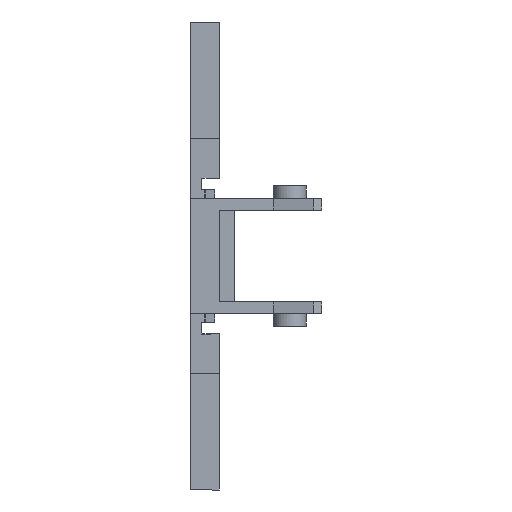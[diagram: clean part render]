
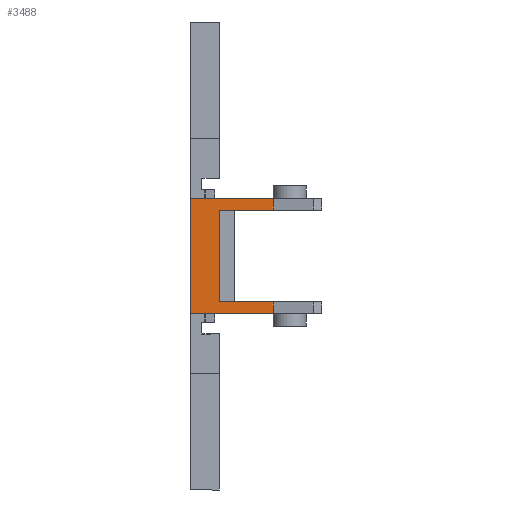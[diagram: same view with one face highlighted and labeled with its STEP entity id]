
A CAD part, front view. The second image highlights one B-rep face of the part: STEP entity #3488.
In plain terms, the highlighted planar face has unit normal (0, -1, 0).
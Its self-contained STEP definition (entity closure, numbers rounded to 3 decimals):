
#259 = CARTESIAN_POINT ( 'NONE',  ( 13.5, -16.55, -5.9 ) ) ;
#260 = PLANE ( 'NONE',  #2984 ) ;
#262 = DIRECTION ( 'NONE',  ( 0., -1., 0. ) ) ;
#263 = DIRECTION ( 'NONE',  ( -1., 0., 0. ) ) ;
#364 = LINE ( 'NONE', #3201, #365 ) ;
#365 = VECTOR ( 'NONE', #3199, 1000. ) ;
#533 = FACE_OUTER_BOUND ( 'NONE', #824, .T. ) ;
#582 = ORIENTED_EDGE ( 'NONE', *, *, #3046, .T. ) ;
#586 = ORIENTED_EDGE ( 'NONE', *, *, #2818, .F. ) ;
#690 = ORIENTED_EDGE ( 'NONE', *, *, #2851, .F. ) ;
#736 = ORIENTED_EDGE ( 'NONE', *, *, #2920, .F. ) ;
#753 = ORIENTED_EDGE ( 'NONE', *, *, #2906, .T. ) ;
#796 = ORIENTED_EDGE ( 'NONE', *, *, #2751, .T. ) ;
#815 = ORIENTED_EDGE ( 'NONE', *, *, #3123, .T. ) ;
#818 = ORIENTED_EDGE ( 'NONE', *, *, #2761, .F. ) ;
#824 = EDGE_LOOP ( 'NONE', ( #736, #753, #818, #582, #796, #815, #586, #690 ) ) ;
#1350 = LINE ( 'NONE', #2267, #1360 ) ;
#1360 = VECTOR ( 'NONE', #2272, 1000. ) ;
#1368 = VECTOR ( 'NONE', #2285, 1000. ) ;
#1371 = LINE ( 'NONE', #2279, #1368 ) ;
#1439 = LINE ( 'NONE', #2364, #1440 ) ;
#1440 = VECTOR ( 'NONE', #2365, 1000. ) ;
#1480 = LINE ( 'NONE', #2411, #1481 ) ;
#1481 = VECTOR ( 'NONE', #2412, 1000. ) ;
#1548 = LINE ( 'NONE', #2487, #1549 ) ;
#1549 = VECTOR ( 'NONE', #2488, 1000. ) ;
#1569 = LINE ( 'NONE', #2510, #1570 ) ;
#1570 = VECTOR ( 'NONE', #2511, 1000. ) ;
#1710 = LINE ( 'NONE', #3296, #1711 ) ;
#1711 = VECTOR ( 'NONE', #3281, 1000. ) ;
#1870 = VERTEX_POINT ( 'NONE', #2066 ) ;
#1871 = VERTEX_POINT ( 'NONE', #2067 ) ;
#1872 = VERTEX_POINT ( 'NONE', #2068 ) ;
#1873 = VERTEX_POINT ( 'NONE', #2069 ) ;
#1874 = VERTEX_POINT ( 'NONE', #2070 ) ;
#1875 = VERTEX_POINT ( 'NONE', #2071 ) ;
#1876 = VERTEX_POINT ( 'NONE', #2072 ) ;
#1877 = VERTEX_POINT ( 'NONE', #2073 ) ;
#2066 = CARTESIAN_POINT ( 'NONE',  ( 3., -16.55, 4.7 ) ) ;
#2067 = CARTESIAN_POINT ( 'NONE',  ( 3., -16.55, -4.7 ) ) ;
#2068 = CARTESIAN_POINT ( 'NONE',  ( 8.523, -16.55, 4.7 ) ) ;
#2069 = CARTESIAN_POINT ( 'NONE',  ( 8.523, -16.55, 5.9 ) ) ;
#2070 = CARTESIAN_POINT ( 'NONE',  ( 0., -16.55, 5.9 ) ) ;
#2071 = CARTESIAN_POINT ( 'NONE',  ( 0., -16.55, -5.9 ) ) ;
#2072 = CARTESIAN_POINT ( 'NONE',  ( 8.523, -16.55, -5.9 ) ) ;
#2073 = CARTESIAN_POINT ( 'NONE',  ( 8.523, -16.55, -4.7 ) ) ;
#2267 = CARTESIAN_POINT ( 'NONE',  ( 0., -16.55, 15.37 ) ) ;
#2272 = DIRECTION ( 'NONE',  ( 0., 0., -1. ) ) ;
#2279 = CARTESIAN_POINT ( 'NONE',  ( 8.523, -16.55, 67.733 ) ) ;
#2285 = DIRECTION ( 'NONE',  ( 0., 0., -1. ) ) ;
#2364 = CARTESIAN_POINT ( 'NONE',  ( 8.523, -16.55, 67.733 ) ) ;
#2365 = DIRECTION ( 'NONE',  ( 0., 0., -1. ) ) ;
#2411 = CARTESIAN_POINT ( 'NONE',  ( 13.5, -16.55, -4.7 ) ) ;
#2412 = DIRECTION ( 'NONE',  ( 1., 0., 0. ) ) ;
#2487 = CARTESIAN_POINT ( 'NONE',  ( 13.5, -16.55, 4.7 ) ) ;
#2488 = DIRECTION ( 'NONE',  ( 1., 0., 0. ) ) ;
#2510 = CARTESIAN_POINT ( 'NONE',  ( 3., -16.55, -5.9 ) ) ;
#2511 = DIRECTION ( 'NONE',  ( 0., 0., -1. ) ) ;
#2751 = EDGE_CURVE ( 'NONE', #1874, #1875, #1350, .T. ) ;
#2761 = EDGE_CURVE ( 'NONE', #1873, #1872, #1371, .T. ) ;
#2818 = EDGE_CURVE ( 'NONE', #1877, #1876, #1439, .T. ) ;
#2851 = EDGE_CURVE ( 'NONE', #1871, #1877, #1480, .T. ) ;
#2906 = EDGE_CURVE ( 'NONE', #1870, #1872, #1548, .T. ) ;
#2920 = EDGE_CURVE ( 'NONE', #1870, #1871, #1569, .T. ) ;
#2984 = AXIS2_PLACEMENT_3D ( 'NONE', #259, #262, #263 ) ;
#3046 = EDGE_CURVE ( 'NONE', #1873, #1874, #1710, .T. ) ;
#3123 = EDGE_CURVE ( 'NONE', #1875, #1876, #364, .T. ) ;
#3199 = DIRECTION ( 'NONE',  ( 1., 0., 0. ) ) ;
#3201 = CARTESIAN_POINT ( 'NONE',  ( 1.5, -16.55, -5.9 ) ) ;
#3281 = DIRECTION ( 'NONE',  ( -1., 0., 0. ) ) ;
#3296 = CARTESIAN_POINT ( 'NONE',  ( 13.5, -16.55, 5.9 ) ) ;
#3488 = ADVANCED_FACE ( 'NONE', ( #533 ), #260, .T. ) ;
